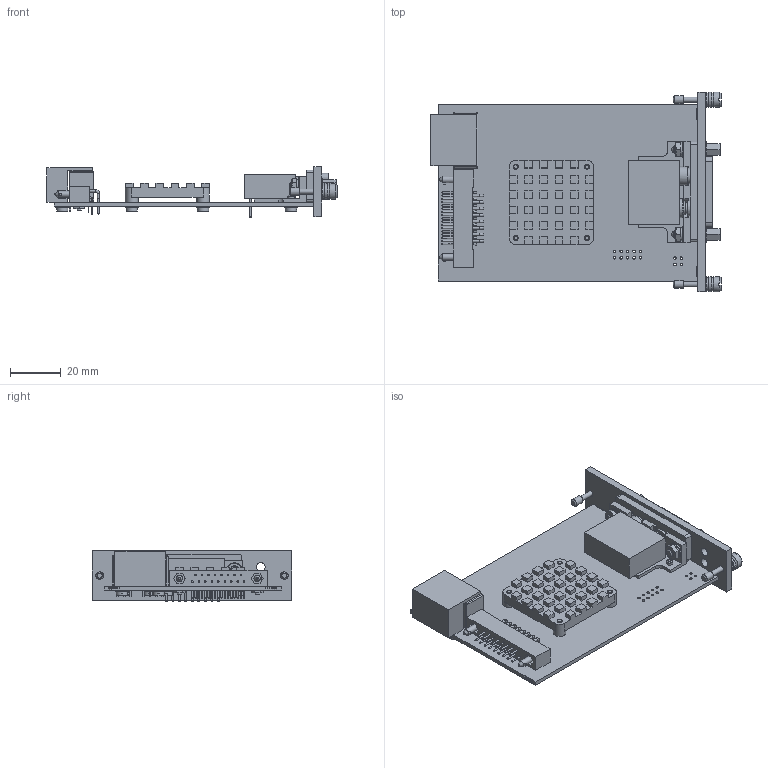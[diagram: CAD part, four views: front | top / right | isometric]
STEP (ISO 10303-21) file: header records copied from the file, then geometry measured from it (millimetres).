
FILE_DESCRIPTION(('STEP AP203'), '1');
FILE_NAME('帎迗.469565.003 沓劌錪 眝3_恮_301', '', ('UNSPECIFIED'), ('UNSPECIFIED'), 'C3D Converter', 'C3D Toolkit', '');
FILE_SCHEMA(('CONFIG_CONTROL_DESIGN'));
Length unit declared in the file: millimetre
Products named in the file (1): КМНТ.469565.003
Bounding box: 113.92 x 78.5 x 19.91 mm (x, y, z)
Volume: 33166.9 mm3; surface area: 34338.4 mm2
Topology: 5 solids, 5 shells, 1564 faces, 4207 edges, 2747 vertices
Faces by surface type: plane 800, cylinder 641, cone 50, torus 37, sphere 36
Full cylindrical faces by diameter (mm): 0.5 x8, 0.6 x43, 0.8 x26, 0.852 x9, 1 x40, 1.1 x7, 1.4 x2, 1.6 x2, 2 x2, 2.013 x6, 2.1 x2, 2.362 x2, 2.459 x2, 2.49 x2, 2.5 x8, 2.7 x14, 2.9 x2, 3 x2, 3.175 x4, 3.2 x4, 3.4 x2, 4.3 x3, 4.5 x8, 4.7 x2, 4.8 x2, 5 x12, 5.3 x1, 6 x10, 6.25 x2, 6.3 x1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
Entity records: 62663 total; most frequent: CARTESIAN_POINT 10779, DIRECTION 8402, ORIENTED_EDGE 7672, EDGE_CURVE 3836, AXIS2_PLACEMENT_3D 3102, VERTEX_POINT 2732, EDGE_LOOP 2200, LINE 2198
